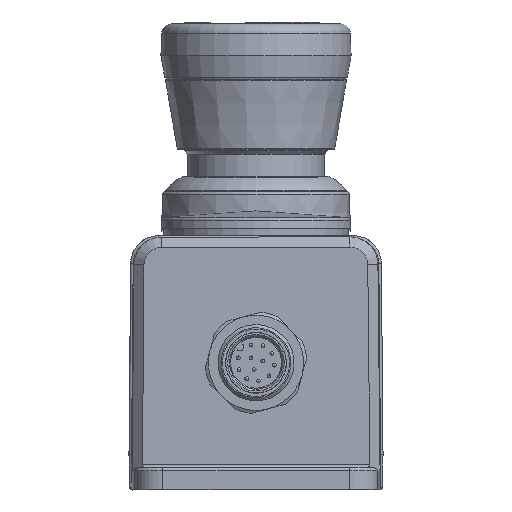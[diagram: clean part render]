
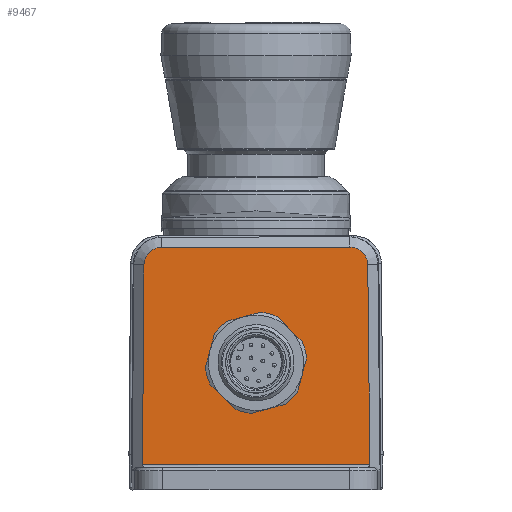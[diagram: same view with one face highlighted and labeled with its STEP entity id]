
A CAD part, front view. The second image highlights one B-rep face of the part: STEP entity #9467.
In plain terms, the highlighted planar face has unit normal (0, -1, 0).
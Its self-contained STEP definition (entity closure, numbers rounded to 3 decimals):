
#894=LINE('',#18198,#1410);
#926=LINE('',#18280,#1442);
#929=LINE('',#18291,#1445);
#932=LINE('',#18300,#1448);
#1410=VECTOR('',#13019,10.);
#1442=VECTOR('',#13095,10.);
#1445=VECTOR('',#13106,10.);
#1448=VECTOR('',#13117,10.);
#1759=FACE_BOUND('',#2847,.T.);
#2236=FACE_OUTER_BOUND('',#2846,.T.);
#2846=EDGE_LOOP('',(#8243,#8244,#8245,#8246,#8247,#8248));
#2847=EDGE_LOOP('',(#8249));
#3459=CIRCLE('',#10538,6.05);
#3470=CIRCLE('',#10566,2.8);
#3472=CIRCLE('',#10570,2.8);
#4327=VERTEX_POINT('',#18187);
#4328=VERTEX_POINT('',#18191);
#4331=VERTEX_POINT('',#18196);
#4359=VERTEX_POINT('',#18278);
#4361=VERTEX_POINT('',#18284);
#4363=VERTEX_POINT('',#18289);
#4365=VERTEX_POINT('',#18296);
#5629=EDGE_CURVE('',#4327,#4327,#3459,.T.);
#5633=EDGE_CURVE('',#4331,#4328,#894,.T.);
#5674=EDGE_CURVE('',#4359,#4331,#926,.T.);
#5677=EDGE_CURVE('',#4361,#4359,#3470,.T.);
#5679=EDGE_CURVE('',#4363,#4361,#929,.T.);
#5683=EDGE_CURVE('',#4365,#4363,#3472,.T.);
#5684=EDGE_CURVE('',#4328,#4365,#932,.T.);
#8243=ORIENTED_EDGE('',*,*,#5633,.F.);
#8244=ORIENTED_EDGE('',*,*,#5674,.F.);
#8245=ORIENTED_EDGE('',*,*,#5677,.F.);
#8246=ORIENTED_EDGE('',*,*,#5679,.F.);
#8247=ORIENTED_EDGE('',*,*,#5683,.F.);
#8248=ORIENTED_EDGE('',*,*,#5684,.F.);
#8249=ORIENTED_EDGE('',*,*,#5629,.T.);
#8983=PLANE('',#10587);
#9467=ADVANCED_FACE('',(#2236,#1759),#8983,.T.);
#10538=AXIS2_PLACEMENT_3D('',#18189,#13010,#13011);
#10566=AXIS2_PLACEMENT_3D('',#18286,#13101,#13102);
#10570=AXIS2_PLACEMENT_3D('',#18298,#13113,#13114);
#10587=AXIS2_PLACEMENT_3D('',#18341,#13164,#13165);
#13010=DIRECTION('center_axis',(0.,1.,0.));
#13011=DIRECTION('ref_axis',(-0.966,0.,0.259));
#13019=DIRECTION('',(-1.,0.,0.));
#13095=DIRECTION('',(0.009,0.,-1.));
#13101=DIRECTION('center_axis',(0.,1.,0.));
#13102=DIRECTION('ref_axis',(0.704,0.,0.71));
#13106=DIRECTION('',(1.,0.,0.));
#13113=DIRECTION('center_axis',(0.,1.,0.));
#13114=DIRECTION('ref_axis',(-0.704,0.,0.71));
#13117=DIRECTION('',(0.009,0.,1.));
#13164=DIRECTION('center_axis',(0.,-1.,0.));
#13165=DIRECTION('ref_axis',(-1.,0.,0.));
#18187=CARTESIAN_POINT('',(5.844,-7.,-1.566));
#18189=CARTESIAN_POINT('Origin',(0.,-7.,0.));
#18191=CARTESIAN_POINT('',(-17.896,-7.,-16.));
#18196=CARTESIAN_POINT('',(17.896,-7.,-16.));
#18198=CARTESIAN_POINT('',(9.75,-7.,-16.));
#18278=CARTESIAN_POINT('',(17.621,-7.,15.424));
#18280=CARTESIAN_POINT('',(17.828,-7.,-8.27));
#18284=CARTESIAN_POINT('',(14.821,-7.,18.2));
#18286=CARTESIAN_POINT('Origin',(14.821,-7.,15.4));
#18289=CARTESIAN_POINT('',(-14.821,-7.,18.2));
#18291=CARTESIAN_POINT('',(9.592,-7.,18.2));
#18296=CARTESIAN_POINT('',(-17.621,-7.,15.424));
#18298=CARTESIAN_POINT('Origin',(-14.821,-7.,15.4));
#18300=CARTESIAN_POINT('',(-17.67,-7.,9.88));
#18341=CARTESIAN_POINT('Origin',(0.,-7.,-0.18));
